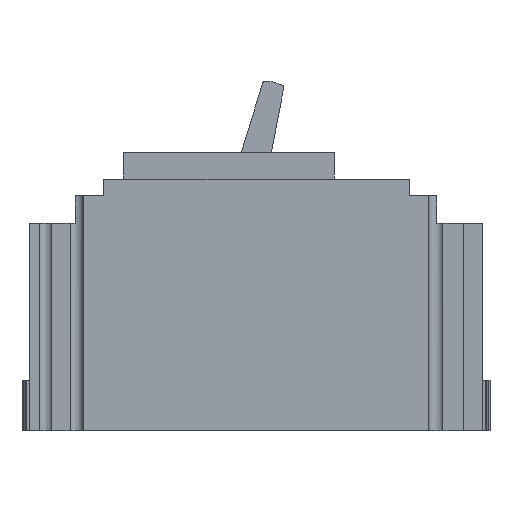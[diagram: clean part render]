
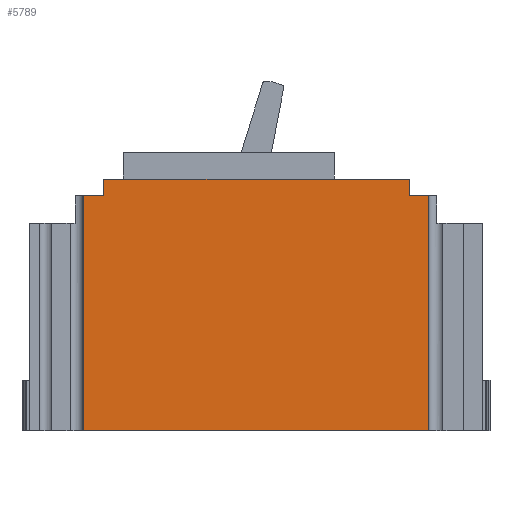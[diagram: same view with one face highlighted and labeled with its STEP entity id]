
A CAD part, left-side view. The second image highlights one B-rep face of the part: STEP entity #5789.
In plain terms, the highlighted planar face has unit normal (-1, 0, 0).
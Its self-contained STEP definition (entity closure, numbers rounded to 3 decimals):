
#93 = VERTEX_POINT ( 'NONE', #7283 ) ;
#243 = ORIENTED_EDGE ( 'NONE', *, *, #3010, .F. ) ;
#252 = VERTEX_POINT ( 'NONE', #992 ) ;
#555 = LINE ( 'NONE', #4663, #6402 ) ;
#657 = DIRECTION ( 'NONE',  ( 0., -1., 0. ) ) ;
#779 = LINE ( 'NONE', #895, #8599 ) ;
#895 = CARTESIAN_POINT ( 'NONE',  ( -52.5, 52.9, 81.6 ) ) ;
#992 = CARTESIAN_POINT ( 'NONE',  ( -52.5, -53.1, 81.6 ) ) ;
#1290 = EDGE_CURVE ( 'NONE', #252, #2721, #7798, .T. ) ;
#1570 = CARTESIAN_POINT ( 'NONE',  ( -52.5, 60.1, 96.6 ) ) ;
#1622 = LINE ( 'NONE', #6551, #6717 ) ;
#1868 = ORIENTED_EDGE ( 'NONE', *, *, #6179, .F. ) ;
#1925 = ORIENTED_EDGE ( 'NONE', *, *, #5930, .F. ) ;
#2023 = ORIENTED_EDGE ( 'NONE', *, *, #7004, .T. ) ;
#2044 = CARTESIAN_POINT ( 'NONE',  ( -52.5, -53.1, 87.4 ) ) ;
#2047 = LINE ( 'NONE', #6355, #7655 ) ;
#2289 = CARTESIAN_POINT ( 'NONE',  ( -52.5, -59.9, 81.6 ) ) ;
#2314 = VERTEX_POINT ( 'NONE', #2044 ) ;
#2430 = VERTEX_POINT ( 'NONE', #3540 ) ;
#2592 = VECTOR ( 'NONE', #3143, 1000. ) ;
#2606 = ORIENTED_EDGE ( 'NONE', *, *, #1290, .F. ) ;
#2629 = VERTEX_POINT ( 'NONE', #7816 ) ;
#2663 = PLANE ( 'NONE',  #7903 ) ;
#2689 = DIRECTION ( 'NONE',  ( 0., 0., -1. ) ) ;
#2721 = VERTEX_POINT ( 'NONE', #2289 ) ;
#2953 = ORIENTED_EDGE ( 'NONE', *, *, #6716, .F. ) ;
#2964 = VERTEX_POINT ( 'NONE', #3032 ) ;
#3010 = EDGE_CURVE ( 'NONE', #2629, #2314, #4596, .T. ) ;
#3032 = CARTESIAN_POINT ( 'NONE',  ( -52.5, 60.1, 0. ) ) ;
#3103 = DIRECTION ( 'NONE',  ( 0., 0., -1. ) ) ;
#3143 = DIRECTION ( 'NONE',  ( 0., -1., 0. ) ) ;
#3540 = CARTESIAN_POINT ( 'NONE',  ( -52.5, 52.9, 81.6 ) ) ;
#3651 = DIRECTION ( 'NONE',  ( 0., 0., 1. ) ) ;
#3681 = CARTESIAN_POINT ( 'NONE',  ( -52.5, -53.1, 81.6 ) ) ;
#4033 = CARTESIAN_POINT ( 'NONE',  ( -52.5, -59.9, 96.6 ) ) ;
#4249 = ORIENTED_EDGE ( 'NONE', *, *, #7361, .F. ) ;
#4596 = LINE ( 'NONE', #7761, #2592 ) ;
#4663 = CARTESIAN_POINT ( 'NONE',  ( -52.5, 62.9, 81.6 ) ) ;
#4877 = FACE_OUTER_BOUND ( 'NONE', #7214, .T. ) ;
#4890 = CARTESIAN_POINT ( 'NONE',  ( -52.5, 60.1, 81.6 ) ) ;
#5565 = DIRECTION ( 'NONE',  ( 0., -1., 0. ) ) ;
#5705 = VECTOR ( 'NONE', #3103, 1000. ) ;
#5726 = CARTESIAN_POINT ( 'NONE',  ( -52.5, -53.1, 87.7 ) ) ;
#5789 = ADVANCED_FACE ( 'NONE', ( #4877 ), #2663, .F. ) ;
#5861 = VERTEX_POINT ( 'NONE', #4890 ) ;
#5930 = EDGE_CURVE ( 'NONE', #2430, #2629, #779, .T. ) ;
#6015 = DIRECTION ( 'NONE',  ( 1., 0., 0. ) ) ;
#6179 = EDGE_CURVE ( 'NONE', #2314, #252, #7875, .T. ) ;
#6355 = CARTESIAN_POINT ( 'NONE',  ( -52.5, -59.9, 0. ) ) ;
#6402 = VECTOR ( 'NONE', #657, 1000. ) ;
#6474 = EDGE_CURVE ( 'NONE', #2964, #93, #2047, .T. ) ;
#6527 = DIRECTION ( 'NONE',  ( 0., 0., -1. ) ) ;
#6551 = CARTESIAN_POINT ( 'NONE',  ( -52.5, -59.9, 96.6 ) ) ;
#6712 = LINE ( 'NONE', #1570, #7221 ) ;
#6716 = EDGE_CURVE ( 'NONE', #2721, #93, #1622, .T. ) ;
#6717 = VECTOR ( 'NONE', #6527, 1000. ) ;
#7004 = EDGE_CURVE ( 'NONE', #5861, #2964, #6712, .T. ) ;
#7214 = EDGE_LOOP ( 'NONE', ( #1868, #243, #1925, #4249, #2023, #7882, #2953, #2606 ) ) ;
#7221 = VECTOR ( 'NONE', #7494, 1000. ) ;
#7283 = CARTESIAN_POINT ( 'NONE',  ( -52.5, -59.9, 0. ) ) ;
#7361 = EDGE_CURVE ( 'NONE', #5861, #2430, #555, .T. ) ;
#7494 = DIRECTION ( 'NONE',  ( 0., 0., -1. ) ) ;
#7566 = VECTOR ( 'NONE', #5565, 1000. ) ;
#7655 = VECTOR ( 'NONE', #8271, 1000. ) ;
#7761 = CARTESIAN_POINT ( 'NONE',  ( -52.5, 52.9, 87.4 ) ) ;
#7798 = LINE ( 'NONE', #3681, #7566 ) ;
#7816 = CARTESIAN_POINT ( 'NONE',  ( -52.5, 52.9, 87.4 ) ) ;
#7875 = LINE ( 'NONE', #5726, #5705 ) ;
#7882 = ORIENTED_EDGE ( 'NONE', *, *, #6474, .T. ) ;
#7903 = AXIS2_PLACEMENT_3D ( 'NONE', #4033, #6015, #2689 ) ;
#8271 = DIRECTION ( 'NONE',  ( 0., -1., 0. ) ) ;
#8599 = VECTOR ( 'NONE', #3651, 1000. ) ;
